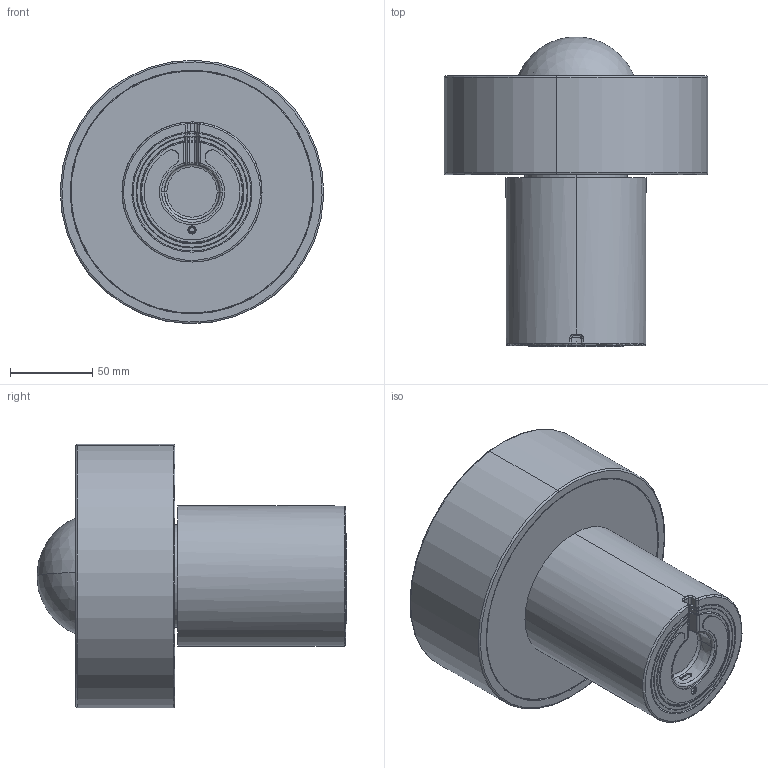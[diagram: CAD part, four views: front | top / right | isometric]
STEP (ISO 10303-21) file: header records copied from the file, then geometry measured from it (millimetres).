
FILE_DESCRIPTION (( 'STEP AP203' ), '1' );
FILE_NAME ('Stone Portable LED.STEP', '2023-06-22T14:35:24', ( '' ), ( '' ), 'SwSTEP 2.0', 'SolidWorks 2022', '' );
FILE_SCHEMA (( 'CONFIG_CONTROL_DESIGN' ));
Length unit declared in the file: millimetre
Products named in the file (1): Stone Portable LED
Bounding box: 159.95 x 188.02 x 159.95 mm (x, y, z)
Volume: 807250.5 mm3; surface area: 273501.1 mm2
Topology: 11 solids, 11 shells, 684 faces, 1753 edges, 1131 vertices
Faces by surface type: plane 280, cylinder 163, cone 104, bspline 72, torus 55, sphere 10
Entity records: 25301 total; most frequent: CARTESIAN_POINT 8986, ORIENTED_EDGE 3506, DIRECTION 3244, EDGE_CURVE 1753, AXIS2_PLACEMENT_3D 1263, VERTEX_POINT 1131, EDGE_LOOP 770, VECTOR 718
